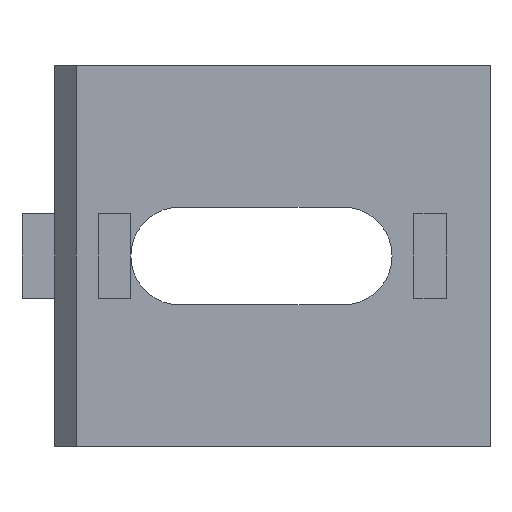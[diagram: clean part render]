
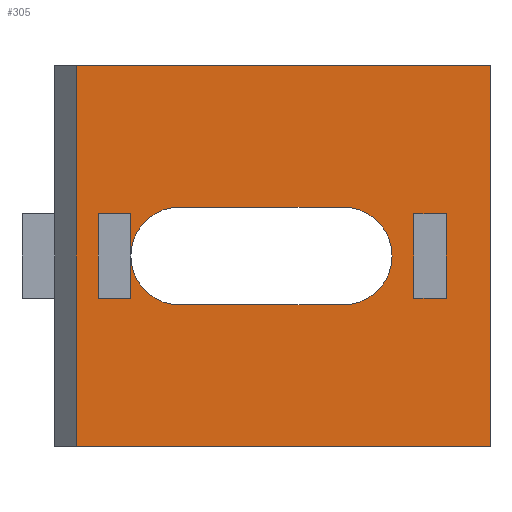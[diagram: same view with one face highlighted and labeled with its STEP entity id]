
A CAD part, front view. The second image highlights one B-rep face of the part: STEP entity #305.
In plain terms, the highlighted planar face has unit normal (0, -1, 0).
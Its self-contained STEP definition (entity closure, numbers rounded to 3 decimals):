
#51=CARTESIAN_POINT('',(1.,0.,-35.0));
#52=VERTEX_POINT('',#51);
#59=CARTESIAN_POINT('',(1.,0.,0.0));
#60=VERTEX_POINT('',#59);
#61=CARTESIAN_POINT('',(1.,0.,-35.0));
#62=DIRECTION('',(0.0,0.0,1.0));
#63=VECTOR('',#62,35.0);
#64=LINE('',#61,#63);
#65=EDGE_CURVE('',#52,#60,#64,.T.);
#90=CARTESIAN_POINT('',(39.0,0.,0.0));
#91=VERTEX_POINT('',#90);
#92=CARTESIAN_POINT('',(1.,0.,0.0));
#93=DIRECTION('',(1.0,0.0,0.0));
#94=VECTOR('',#93,38.0);
#95=LINE('',#92,#94);
#96=EDGE_CURVE('',#60,#91,#95,.T.);
#165=CARTESIAN_POINT('',(-1.,0.,0.0));
#166=DIRECTION('',(0.0,-1.0,0.0));
#167=DIRECTION('',(0.0,0.0,-1.0));
#168=AXIS2_PLACEMENT_3D('',#165,#166,#167);
#169=PLANE('',#168);
#170=ORIENTED_EDGE('',*,*,#65,.F.);
#171=CARTESIAN_POINT('',(39.0,0.,-35.0));
#172=VERTEX_POINT('',#171);
#173=CARTESIAN_POINT('',(1.,0.,-35.0));
#174=DIRECTION('',(1.0,0.0,0.0));
#175=VECTOR('',#174,38.0);
#176=LINE('',#173,#175);
#177=EDGE_CURVE('',#52,#172,#176,.T.);
#178=ORIENTED_EDGE('',*,*,#177,.T.);
#179=CARTESIAN_POINT('',(39.0,0.,0.0));
#180=DIRECTION('',(0.0,0.0,-1.0));
#181=VECTOR('',#180,35.0);
#182=LINE('',#179,#181);
#183=EDGE_CURVE('',#91,#172,#182,.T.);
#184=ORIENTED_EDGE('',*,*,#183,.F.);
#185=ORIENTED_EDGE('',*,*,#96,.F.);
#186=EDGE_LOOP('',(#170,#178,#184,#185));
#187=FACE_OUTER_BOUND('',#186,.T.);
#188=CARTESIAN_POINT('',(32.0,0.,-13.6));
#189=VERTEX_POINT('',#188);
#190=CARTESIAN_POINT('',(35.,0.,-13.6));
#191=VERTEX_POINT('',#190);
#192=CARTESIAN_POINT('',(32.0,0.,-13.6));
#193=DIRECTION('',(1.0,0.0,0.0));
#194=VECTOR('',#193,3.);
#195=LINE('',#192,#194);
#196=EDGE_CURVE('',#189,#191,#195,.T.);
#197=ORIENTED_EDGE('',*,*,#196,.T.);
#198=CARTESIAN_POINT('',(35.,0.,-21.4));
#199=VERTEX_POINT('',#198);
#200=CARTESIAN_POINT('',(35.,0.,-13.6));
#201=DIRECTION('',(0.0,0.0,-1.0));
#202=VECTOR('',#201,7.8);
#203=LINE('',#200,#202);
#204=EDGE_CURVE('',#191,#199,#203,.T.);
#205=ORIENTED_EDGE('',*,*,#204,.T.);
#206=CARTESIAN_POINT('',(32.0,0.,-21.4));
#207=VERTEX_POINT('',#206);
#208=CARTESIAN_POINT('',(35.,0.,-21.4));
#209=DIRECTION('',(-1.0,0.0,0.0));
#210=VECTOR('',#209,3.);
#211=LINE('',#208,#210);
#212=EDGE_CURVE('',#199,#207,#211,.T.);
#213=ORIENTED_EDGE('',*,*,#212,.T.);
#214=CARTESIAN_POINT('',(32.0,0.,-21.4));
#215=DIRECTION('',(0.0,0.0,1.0));
#216=VECTOR('',#215,7.8);
#217=LINE('',#214,#216);
#218=EDGE_CURVE('',#207,#189,#217,.T.);
#219=ORIENTED_EDGE('',*,*,#218,.T.);
#220=EDGE_LOOP('',(#197,#205,#213,#219));
#221=FACE_BOUND('',#220,.T.);
#222=CARTESIAN_POINT('',(3.,0.,-13.6));
#223=VERTEX_POINT('',#222);
#224=CARTESIAN_POINT('',(6.,0.,-13.6));
#225=VERTEX_POINT('',#224);
#226=CARTESIAN_POINT('',(3.,0.,-13.6));
#227=DIRECTION('',(1.0,0.0,0.0));
#228=VECTOR('',#227,3.0);
#229=LINE('',#226,#228);
#230=EDGE_CURVE('',#223,#225,#229,.T.);
#231=ORIENTED_EDGE('',*,*,#230,.T.);
#232=CARTESIAN_POINT('',(6.,0.,-17.5));
#233=VERTEX_POINT('',#232);
#234=CARTESIAN_POINT('',(6.,0.,-13.6));
#235=DIRECTION('',(0.0,0.0,-1.0));
#236=VECTOR('',#235,3.9);
#237=LINE('',#234,#236);
#238=EDGE_CURVE('',#225,#233,#237,.T.);
#239=ORIENTED_EDGE('',*,*,#238,.T.);
#240=CARTESIAN_POINT('',(10.5,0.,-13.));
#241=VERTEX_POINT('',#240);
#242=CARTESIAN_POINT('',(10.5,0.,-17.5));
#243=DIRECTION('',(0.0,1.0,0.0));
#244=DIRECTION('',(1.0,0.0,0.0));
#245=AXIS2_PLACEMENT_3D('',#242,#243,#244);
#246=CIRCLE('',#245,4.5);
#247=EDGE_CURVE('',#233,#241,#246,.T.);
#248=ORIENTED_EDGE('',*,*,#247,.T.);
#249=CARTESIAN_POINT('',(25.5,0.,-13.));
#250=VERTEX_POINT('',#249);
#251=CARTESIAN_POINT('',(10.5,0.,-13.));
#252=DIRECTION('',(1.0,0.0,0.0));
#253=VECTOR('',#252,15.);
#254=LINE('',#251,#253);
#255=EDGE_CURVE('',#241,#250,#254,.T.);
#256=ORIENTED_EDGE('',*,*,#255,.T.);
#257=CARTESIAN_POINT('',(25.5,0.,-22.0));
#258=VERTEX_POINT('',#257);
#259=CARTESIAN_POINT('',(25.5,0.,-17.5));
#260=DIRECTION('',(0.0,1.0,0.0));
#261=DIRECTION('',(-1.0,0.0,0.0));
#262=AXIS2_PLACEMENT_3D('',#259,#260,#261);
#263=CIRCLE('',#262,4.5);
#264=EDGE_CURVE('',#250,#258,#263,.T.);
#265=ORIENTED_EDGE('',*,*,#264,.T.);
#266=CARTESIAN_POINT('',(10.5,0.,-22.));
#267=VERTEX_POINT('',#266);
#268=CARTESIAN_POINT('',(25.5,0.,-22.0));
#269=DIRECTION('',(-1.0,0.0,0.0));
#270=VECTOR('',#269,15.);
#271=LINE('',#268,#270);
#272=EDGE_CURVE('',#258,#267,#271,.T.);
#273=ORIENTED_EDGE('',*,*,#272,.T.);
#274=CARTESIAN_POINT('',(10.5,0.,-17.5));
#275=DIRECTION('',(0.0,1.0,0.0));
#276=DIRECTION('',(1.0,0.0,0.0));
#277=AXIS2_PLACEMENT_3D('',#274,#275,#276);
#278=CIRCLE('',#277,4.5);
#279=EDGE_CURVE('',#267,#233,#278,.T.);
#280=ORIENTED_EDGE('',*,*,#279,.T.);
#281=CARTESIAN_POINT('',(6.,0.,-21.4));
#282=VERTEX_POINT('',#281);
#283=CARTESIAN_POINT('',(6.,0.,-17.5));
#284=DIRECTION('',(0.0,0.0,-1.0));
#285=VECTOR('',#284,3.9);
#286=LINE('',#283,#285);
#287=EDGE_CURVE('',#233,#282,#286,.T.);
#288=ORIENTED_EDGE('',*,*,#287,.T.);
#289=CARTESIAN_POINT('',(3.,0.,-21.4));
#290=VERTEX_POINT('',#289);
#291=CARTESIAN_POINT('',(6.,0.,-21.4));
#292=DIRECTION('',(-1.0,0.0,0.0));
#293=VECTOR('',#292,3.);
#294=LINE('',#291,#293);
#295=EDGE_CURVE('',#282,#290,#294,.T.);
#296=ORIENTED_EDGE('',*,*,#295,.T.);
#297=CARTESIAN_POINT('',(3.,0.,-21.4));
#298=DIRECTION('',(0.0,0.0,1.0));
#299=VECTOR('',#298,7.8);
#300=LINE('',#297,#299);
#301=EDGE_CURVE('',#290,#223,#300,.T.);
#302=ORIENTED_EDGE('',*,*,#301,.T.);
#303=EDGE_LOOP('',(#231,#239,#248,#256,#265,#273,#280,#288,#296,#302));
#304=FACE_BOUND('',#303,.T.);
#305=ADVANCED_FACE('',(#187,#221,#304),#169,.T.);
